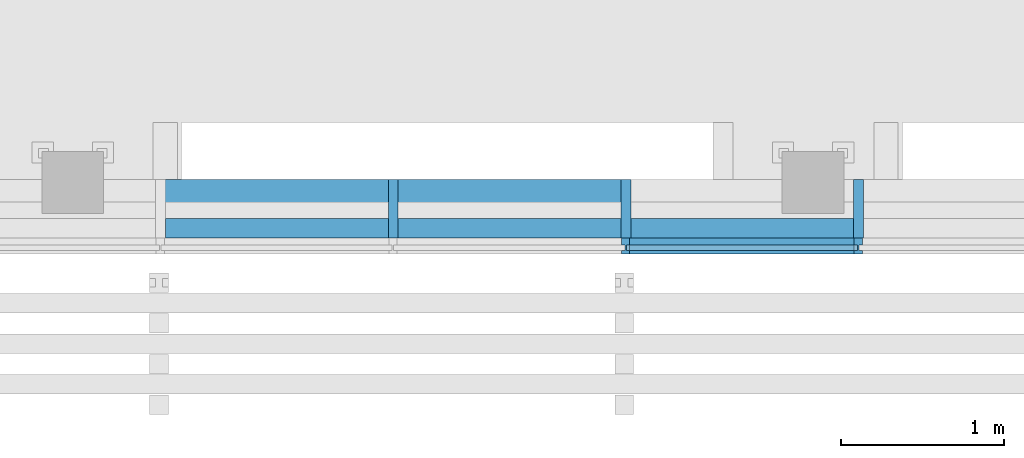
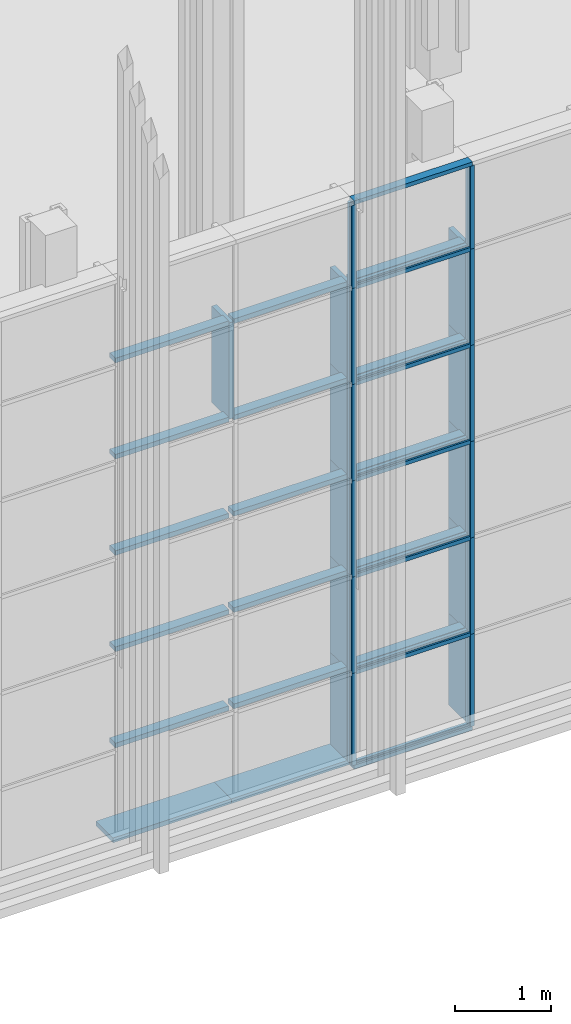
# One storey, part 14 of 260: 47 members, 2 elements without a shape of their own.
"""IFC2X3 building model written with IfcOpenShell, lengths in millimetres."""

import ifcopenshell
import ifcopenshell.guid

model = None  # the IFC model being written
_history = None  # IfcOwnerHistory: only IFC2X3 demands one
_inside = {}  # id of a spatial element -> (the spatial element, [elements in it])
_under = {}  # id of a project, library or spatial element -> (it, [spatial elements below it])
_declared = {}  # id of a project -> (the project, [libraries it declares])
_typed = {}  # id of a type object -> (the type object, [elements of that type])
_made_of = {}  # id of a material, layer set ... -> (it, [elements and type objects made of it])


def new_model(schema):
    """Start an empty IFC model of exactly this schema.

    Asked for "IFC4X3", IfcOpenShell would pick the latest addendum, in which some entities
    have other attributes; the version numbers below select the first issue.
    IFC2X3 requires an IfcOwnerHistory on every rooted entity: one is made here for all.
    """
    global model, _history
    if schema == "IFC4X3":
        model = ifcopenshell.file(schema_version=(4, 3, 0, 0))
    else:
        model = ifcopenshell.file(schema=schema)
    _inside.clear()
    _under.clear()
    _declared.clear()
    _typed.clear()
    _made_of.clear()
    _history = None
    if model.schema == "IFC2X3":
        org = make("IfcOrganization", Name="unknown")
        user = make(
            "IfcPersonAndOrganization",
            ThePerson=make("IfcPerson", FamilyName="unknown"),
            TheOrganization=org,
        )
        app = make(
            "IfcApplication",
            ApplicationDeveloper=org,
            Version="unknown",
            ApplicationFullName="unknown",
            ApplicationIdentifier="unknown",
        )
        _history = make(
            "IfcOwnerHistory",
            OwningUser=user,
            OwningApplication=app,
            ChangeAction="ADDED",
            CreationDate=0,
        )
    return model


def make(cls, **values):
    """One entity of the class cls with the attributes given. An attribute that is None is left unset."""
    return model.create_entity(
        cls, **{name: value for name, value in values.items() if value is not None}
    )


def entity(cls, *values):
    """Any entity or typed value of the class cls, its attributes in the order of the schema. None: left unset."""
    e = model.create_entity(cls)
    for i, value in enumerate(values):
        if value is not None:
            e[i] = value
    return e


def rooted(cls, **values):
    """An entity with a GlobalId (a new one), such as an element, a storey or a relation."""
    return make(cls, GlobalId=ifcopenshell.guid.new(), OwnerHistory=_history, **values)


def si_unit(unit_type, name, prefix=None):
    """IfcSIUnit, for example si_unit("LENGTHUNIT", "METRE", prefix="MILLI")."""
    return make("IfcSIUnit", UnitType=unit_type, Prefix=prefix, Name=name)


def converted_unit(unit_type, name, factor, base, dimensions=None, offset=None):
    """IfcConversionBasedUnit, such as the inch: factor (a typed value) times the base unit."""
    return make(
        "IfcConversionBasedUnit"
        if offset is None
        else "IfcConversionBasedUnitWithOffset",
        ConversionOffset=offset,
        Dimensions=None
        if dimensions is None
        else entity("IfcDimensionalExponents", *dimensions),
        UnitType=unit_type,
        Name=name,
        ConversionFactor=make(
            "IfcMeasureWithUnit", ValueComponent=factor, UnitComponent=base
        ),
    )


def derived_unit(unit_type, elements):
    """IfcDerivedUnit: a product of units, each with its exponent."""
    return make(
        "IfcDerivedUnit",
        Elements=[
            make("IfcDerivedUnitElement", Unit=unit, Exponent=power)
            for unit, power in elements
        ],
        UnitType=unit_type,
    )


def money_unit(currency):
    """IfcMonetaryUnit."""
    return make("IfcMonetaryUnit", Currency=currency)


def assignment(units):
    """IfcUnitAssignment: the units of a project."""
    return None if units is None else make("IfcUnitAssignment", Units=units)


def point(xyz):
    """IfcCartesianPoint."""
    return None if xyz is None else make("IfcCartesianPoint", Coordinates=xyz)


def direction(xyz):
    """IfcDirection."""
    return None if xyz is None else make("IfcDirection", DirectionRatios=xyz)


def frame(location, z_axis=None, x_axis=None):
    """IfcAxis2Placement3D, a coordinate frame: its origin and axes. An axis left out is left unset."""
    return make(
        "IfcAxis2Placement3D",
        Location=point(location),
        Axis=direction(z_axis),
        RefDirection=direction(x_axis),
    )


def origin_with_axes():
    """The frame at (0, 0, 0) with the z axis (0, 0, 1) and the x axis (1, 0, 0) written out."""
    return frame((0.0, 0.0, 0.0), z_axis=(0.0, 0.0, 1.0), x_axis=(1.0, 0.0, 0.0))


def place(relative_to, where):
    """IfcLocalPlacement: puts the frame where relative to a parent placement (None: the world)."""
    return make(
        "IfcLocalPlacement", PlacementRelTo=relative_to, RelativePlacement=where
    )


def context(
    kind, dimensions, precision=None, world=None, true_north=None, identifier=None
):
    """IfcGeometricRepresentationContext, for example the 3D "Model" context."""
    return make(
        "IfcGeometricRepresentationContext",
        ContextIdentifier=identifier,
        ContextType=kind,
        CoordinateSpaceDimension=dimensions,
        Precision=precision,
        WorldCoordinateSystem=world,
        TrueNorth=true_north,
    )


def subcontext(parent, identifier, kind, view, scale=None):
    """IfcGeometricRepresentationSubContext, for example "Body" below "Model"."""
    return make(
        "IfcGeometricRepresentationSubContext",
        ContextIdentifier=identifier,
        ContextType=kind,
        ParentContext=parent,
        TargetScale=scale,
        TargetView=view,
    )


def project(units=None, contexts=None):
    """IfcProject with its units and contexts."""
    return rooted(
        "IfcProject",
        Name="project",
        RepresentationContexts=contexts,
        UnitsInContext=assignment(units),
    )


def spatial(cls, under=None, at=None, **own):
    """A site, building, storey or space (cls), placed at a placement, below another one or the project."""
    s = rooted(cls, ObjectPlacement=at, **own)
    if under is not None:
        _under.setdefault(under.id(), (under, []))[1].append(s)
    return s


def faces_of(points, faces, orient=None, outer=None):
    """IfcFace entities. A face is a list of loops; a loop is a list of indices into points, from 0.

    orient and outer hold one flag for each loop. By default every Orientation is true, the
    first loop of a face is its IfcFaceOuterBound and the others are IfcFaceBound.
    """
    made = []
    for i, loops in enumerate(faces):
        bounds = []
        for j, loop in enumerate(loops):
            is_outer = j == 0 if outer is None else outer[i][j]
            bounds.append(
                make(
                    "IfcFaceOuterBound" if is_outer else "IfcFaceBound",
                    Bound=make("IfcPolyLoop", Polygon=[points[k] for k in loop]),
                    Orientation=True if orient is None else orient[i][j],
                )
            )
        made.append(make("IfcFace", Bounds=bounds))
    return made


def faceted_brep(points, faces, orient=None, outer=None, voids=None):
    """IfcFacetedBrep: a solid bounded by flat faces; with voids (closed shells), ...WithVoids."""
    shared = [point(p) for p in points]
    hull = make("IfcClosedShell", CfsFaces=faces_of(shared, faces, orient, outer))
    if voids is None:
        return make("IfcFacetedBrep", Outer=hull)
    return make(
        "IfcFacetedBrepWithVoids",
        Outer=hull,
        Voids=[
            make(cls, CfsFaces=faces_of(shared, fs, o, b)) for cls, fs, o, b in voids
        ],
    )


def shape(context_of_items, identifier, shape_type, items):
    """IfcShapeRepresentation: the items that make up one representation, for example the "Body"."""
    return make(
        "IfcShapeRepresentation",
        ContextOfItems=context_of_items,
        RepresentationIdentifier=identifier,
        RepresentationType=shape_type,
        Items=items,
    )


def source(mapping_origin, context_of_items, identifier, shape_type, items):
    """IfcRepresentationMap: a shape defined once, which mapped items show again and again."""
    return make(
        "IfcRepresentationMap",
        MappingOrigin=mapping_origin,
        MappedRepresentation=shape(context_of_items, identifier, shape_type, items),
    )


def transform(
    local_origin,
    x_axis=None,
    y_axis=None,
    z_axis=None,
    scale=None,
    scale2=None,
    scale3=None,
    uniform=True,
):
    """IfcCartesianTransformationOperator3D, or its non-uniform kind. x_axis, y_axis, z_axis: its Axis1, 2, 3."""
    if uniform:
        return make(
            "IfcCartesianTransformationOperator3D",
            Axis1=direction(x_axis),
            Axis2=direction(y_axis),
            LocalOrigin=point(local_origin),
            Scale=scale,
            Axis3=direction(z_axis),
        )
    return make(
        "IfcCartesianTransformationOperator3DnonUniform",
        Axis1=direction(x_axis),
        Axis2=direction(y_axis),
        LocalOrigin=point(local_origin),
        Scale=scale,
        Axis3=direction(z_axis),
        Scale2=scale2,
        Scale3=scale3,
    )


def mapped(mapping_source, mapping_target):
    """IfcMappedItem: shows the shape of a source again, moved by a transform."""
    return make(
        "IfcMappedItem", MappingSource=mapping_source, MappingTarget=mapping_target
    )


def material(Name=None, Category=None):
    """IfcMaterial."""
    return make("IfcMaterial", Name=Name, Category=Category)


def made_of(thing, what):
    """Note that an element or type object is made of a material, layer set ...; save() writes the relation."""
    if what is not None:
        _made_of.setdefault(what.id(), (what, []))[1].append(thing)
    return thing


def type_object(cls, material=None, **own):
    """A type object (cls), such as IfcWallType, which elements share."""
    return made_of(rooted(cls, **own), material)


def element(
    cls,
    number,
    at=None,
    inside=None,
    cuts=None,
    type_object=None,
    material=None,
    context=None,
    identifier="Body",
    shape_type=None,
    held_by="IfcProductDefinitionShape",
    body=None,
    shapes=None,
    **own,
):
    """One element of the class cls, such as IfcWall. Its Tag is "e" and its number.

    at: its placement. inside: the storey or other place that contains it. cuts: it is an
    opening in that element (IfcRelVoidsElement). A single representation is given by context,
    identifier, shape_type and body (its items); several are given by shapes. held_by: the class
    of the entity that holds the representations. save() writes the other relations.
    """
    e = rooted(cls, Tag="e%d" % number, ObjectPlacement=at, **own)
    if body is not None:
        shapes = [shape(context, identifier, shape_type, body)]
    if shapes is not None:
        e.Representation = make(held_by, Representations=shapes)
    if inside is not None:
        _inside.setdefault(inside.id(), (inside, []))[1].append(e)
    if cuts is not None:
        rooted(
            "IfcRelVoidsElement", RelatingBuildingElement=cuts, RelatedOpeningElement=e
        )
    if type_object is not None:
        _typed.setdefault(type_object.id(), (type_object, []))[1].append(e)
    return made_of(e, material)


def aggregate(whole, parts):
    """IfcRelAggregates: a whole, such as a stair, and the parts it consists of."""
    return rooted("IfcRelAggregates", RelatingObject=whole, RelatedObjects=parts)


def save(model, path):
    """Write the relations noted so far, then the file.

    IfcRelAggregates (storeys below a building ...), IfcRelContainedInSpatialStructure (elements
    in a storey), IfcRelDefinesByType, IfcRelAssociatesMaterial and IfcRelDeclares: one each for
    every whole, place, type object, material and project.
    """
    for whole, parts in _under.values():
        aggregate(whole, parts)
    for where, things in _inside.values():
        rooted(
            "IfcRelContainedInSpatialStructure",
            RelatedElements=things,
            RelatingStructure=where,
        )
    for kind, things in _typed.values():
        rooted("IfcRelDefinesByType", RelatedObjects=things, RelatingType=kind)
    for what, things in _made_of.values():
        rooted("IfcRelAssociatesMaterial", RelatedObjects=things, RelatingMaterial=what)
    for by, libraries in _declared.values():
        rooted("IfcRelDeclares", RelatingContext=by, RelatedDefinitions=libraries)
    model.write(path)


model = new_model("IFC2X3")

# Units and contexts
model_context = context("Model", 3, precision=0.01, world=origin_with_axes(), true_north=direction((0.0, 1.0)))
body_context = subcontext(model_context, "Body", "Model", "MODEL_VIEW")
ifc_project = project(units=[si_unit("LENGTHUNIT", "METRE", prefix="MILLI"), si_unit("AREAUNIT", "SQUARE_METRE"), si_unit("VOLUMEUNIT", "CUBIC_METRE"), converted_unit("PLANEANGLEUNIT", "DEGREE", entity("IfcPlaneAngleMeasure", 0.0174532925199), si_unit("PLANEANGLEUNIT", "RADIAN"), dimensions=[0, 0, 0, 0, 0, 0, 0]), money_unit("EUR"), converted_unit("TIMEUNIT", "Year", entity("IfcTimeMeasure", 31556926.0), si_unit("TIMEUNIT", "SECOND"), dimensions=[0, 0, 1, 0, 0, 0, 0]), si_unit("MASSUNIT", "GRAM", prefix="KILO"), si_unit("THERMODYNAMICTEMPERATUREUNIT", "DEGREE_CELSIUS"), si_unit("LUMINOUSINTENSITYUNIT", "LUMEN"), si_unit("ENERGYUNIT", "JOULE", prefix="MEGA"), derived_unit("THERMALCONDUCTANCEUNIT", [(si_unit("POWERUNIT", "WATT"), 1), (si_unit("LENGTHUNIT", "METRE"), -1), (si_unit("THERMODYNAMICTEMPERATUREUNIT", "KELVIN"), -1)]), derived_unit("SPECIFICHEATCAPACITYUNIT", [(si_unit("ENERGYUNIT", "JOULE"), 1), (si_unit("MASSUNIT", "GRAM", prefix="KILO"), -1), (si_unit("THERMODYNAMICTEMPERATUREUNIT", "KELVIN"), -1)]), derived_unit("MASSDENSITYUNIT", [(si_unit("MASSUNIT", "GRAM", prefix="KILO"), 1), (si_unit("VOLUMEUNIT", "CUBIC_METRE"), -1)])], contexts=[model_context])

# Site, building, storey
site_placement = place(None, origin_with_axes())
site = spatial("IfcSite", under=ifc_project, at=site_placement, Name="Kolde pst 67a", CompositionType="ELEMENT")
building_placement = place(site_placement, origin_with_axes())
building = spatial("IfcBuilding", under=site, at=building_placement, Name="Riigigümnaasium", CompositionType="ELEMENT")
storey_placement = place(building_placement, origin_with_axes())
storey = spatial("IfcBuildingStorey", under=building, at=storey_placement, Name="1. korrus", CompositionType="ELEMENT", Elevation=0.0)

# Curtain wall, members
curtain_wall_type = type_object("IfcCurtainWallType", Name="Curtain Wall Type", PredefinedType="NOTDEFINED")
curtain_wall_1_placement = place(storey_placement, frame((47829.9854655, 8727.77020058, -0.000749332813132), z_axis=(0.0, 0.0, 1.0), x_axis=(1.0, 0.0, 0.0)))
curtain_wall_1 = element("IfcCurtainWall", 1, at=curtain_wall_1_placement, inside=storey, type_object=curtain_wall_type, Name="KLAASFASSAAD")
ifc_material_1 = material(Name="_METALL - alumiinium")
member_type_1 = type_object("IfcMemberType", Name="Mullion Frame 50 x 100", PredefinedType="MEMBER")
shared_shape_1 = source(origin_with_axes(), body_context, "Body", "Brep", [
    faceted_brep([(5.0, -16.5, 1230.00046362), (5.0, 16.5, 1230.00046362), (25.0, 16.5, 1230.00046362), (25.0, 40.0, 1230.00046362), (-25.0, 40.0, 1230.00046362), (-25.0, 16.5, 1230.00046362), (-5.0, 16.5, 1230.00046362), (-5.0, -16.5, 1230.00046362), (-25.0, -16.5, 1230.00046362), (-25.0, -60.0, 1230.00046362), (25.0, -60.0, 1230.00046362), (25.0, -16.5, 1230.00046362), (5.0, -16.5, 50.0), (5.0, 16.5, 50.0), (25.0, 16.5, 50.0), (25.0, 40.0, 50.0), (-25.0, 40.0, 50.0), (-25.0, 16.5, 50.0), (-5.0, 16.5, 50.0), (-5.0, -16.5, 50.0), (-25.0, -16.5, 50.0), (-25.0, -60.0, 50.0), (25.0, -60.0, 50.0), (25.0, -16.5, 50.0)], [[[0, 1, 2, 3, 4, 5, 6, 7, 8, 9, 10, 11]], [[0, 12, 13, 1]], [[1, 13, 14, 2]], [[14, 15, 3, 2]], [[4, 3, 15, 16]], [[17, 5, 4, 16]], [[5, 17, 18, 6]], [[7, 6, 18, 19]], [[8, 7, 19, 20]], [[8, 20, 21, 9]], [[10, 9, 21, 22]], [[11, 10, 22, 23]], [[11, 23, 12, 0]], [[13, 12, 23, 22, 21, 20, 19, 18, 17, 16, 15, 14]]]),
])
member_1_placement = place(curtain_wall_1_placement, frame((-11302.4150636, 15102.3589146, 0.000285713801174), z_axis=(0.0, 0.0, 1.0), x_axis=(0.999999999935, -1.14108152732e-05, 0.0)))
member_1 = element("IfcMember", 2, at=member_1_placement, type_object=member_type_1, material=ifc_material_1, Name="RF RAAM VERT-095", ObjectType="MEMBER", context=body_context, shape_type="MappedRepresentation", body=[
    mapped(shared_shape_1, transform((0.0, 0.0, 0.0), x_axis=(-1.0, 0.0, 0.0), y_axis=(0.0, -1.0, 0.0), z_axis=(0.0, 0.0, 1.0))),
])
member_2_placement = place(curtain_wall_1_placement, frame((-12732.4150635, 15102.375232, 0.000285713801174), z_axis=(0.0, 0.0, 1.0), x_axis=(0.999999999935, -1.14108152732e-05, 0.0)))
member_2 = element("IfcMember", 3, at=member_2_placement, type_object=member_type_1, material=ifc_material_1, Name="RF RAAM VERT-101", ObjectType="MEMBER", context=body_context, shape_type="MappedRepresentation", body=[
    mapped(shared_shape_1, transform((0.0, 0.0, 0.0), x_axis=(-1.0, 0.0, 0.0), y_axis=(0.0, -1.0, 0.0), z_axis=(0.0, 0.0, 1.0))),
])
shared_shape_2 = source(origin_with_axes(), body_context, "Body", "Brep", [
    faceted_brep([(5.0, -16.5, 1230.0), (5.0, 16.5, 1230.0), (25.0, 16.5, 1230.0), (25.0, 40.0, 1230.0), (-25.0, 40.0, 1230.0), (-25.0, 16.5, 1230.0), (-5.0, 16.5, 1230.0), (-5.0, -16.5, 1230.0), (-25.0, -16.5, 1230.0), (-25.0, -60.0, 1230.0), (25.0, -60.0, 1230.0), (25.0, -16.5, 1230.0), (5.0, -16.5, 0.0), (5.0, 16.5, 0.0), (25.0, 16.5, 0.0), (25.0, 40.0, 0.0), (-25.0, 40.0, 0.0), (-25.0, 16.5, 0.0), (-5.0, 16.5, 0.0), (-5.0, -16.5, 0.0), (-25.0, -16.5, 0.0), (-25.0, -60.0, 0.0), (25.0, -60.0, 0.0), (25.0, -16.5, 0.0)], [[[0, 1, 2, 3, 4, 5, 6, 7, 8, 9, 10, 11]], [[0, 12, 13, 1]], [[1, 13, 14, 2]], [[14, 15, 3, 2]], [[3, 15, 16, 4]], [[17, 5, 4, 16]], [[5, 17, 18, 6]], [[7, 6, 18, 19]], [[8, 7, 19, 20]], [[8, 20, 21, 9]], [[9, 21, 22, 10]], [[11, 10, 22, 23]], [[11, 23, 12, 0]], [[13, 12, 23, 22, 21, 20, 19, 18, 17, 16, 15, 14]]]),
])
member_3_placement = place(curtain_wall_1_placement, frame((-11302.4150636, 15102.3589146, 1230.00074933), z_axis=(0.0, 0.0, 1.0), x_axis=(0.999999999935, -1.14108152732e-05, 0.0)))
member_3 = element("IfcMember", 4, at=member_3_placement, type_object=member_type_1, material=ifc_material_1, Name="RF RAAM VERT-096", ObjectType="MEMBER", context=body_context, shape_type="MappedRepresentation", body=[
    mapped(shared_shape_2, transform((0.0, 0.0, 0.0), x_axis=(-1.0, 0.0, 0.0), y_axis=(0.0, -1.0, 0.0), z_axis=(0.0, 0.0, 1.0))),
])
member_4_placement = place(curtain_wall_1_placement, frame((-11302.4150636, 15102.3589146, 2460.00074933), z_axis=(0.0, 0.0, 1.0), x_axis=(0.999999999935, -1.14108152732e-05, 0.0)))
member_4 = element("IfcMember", 5, at=member_4_placement, type_object=member_type_1, material=ifc_material_1, Name="RF RAAM VERT-097", ObjectType="MEMBER", context=body_context, shape_type="MappedRepresentation", body=[
    mapped(shared_shape_2, transform((0.0, 0.0, 0.0), x_axis=(-1.0, 0.0, 0.0), y_axis=(0.0, -1.0, 0.0), z_axis=(0.0, 0.0, 1.0))),
])
member_5_placement = place(curtain_wall_1_placement, frame((-11302.4150636, 15102.3589146, 3690.00074933), z_axis=(0.0, 0.0, 1.0), x_axis=(0.999999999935, -1.14108152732e-05, 0.0)))
member_5 = element("IfcMember", 6, at=member_5_placement, type_object=member_type_1, material=ifc_material_1, Name="RF RAAM VERT-098", ObjectType="MEMBER", context=body_context, shape_type="MappedRepresentation", body=[
    mapped(shared_shape_2, transform((0.0, 0.0, 0.0), x_axis=(-1.0, 0.0, 0.0), y_axis=(0.0, -1.0, 0.0), z_axis=(0.0, 0.0, 1.0))),
])
member_6_placement = place(curtain_wall_1_placement, frame((-11302.4150636, 15102.3589146, 4920.00074933), z_axis=(0.0, 0.0, 1.0), x_axis=(0.999999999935, -1.14108152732e-05, 0.0)))
member_6 = element("IfcMember", 7, at=member_6_placement, type_object=member_type_1, material=ifc_material_1, Name="RF RAAM VERT-099", ObjectType="MEMBER", context=body_context, shape_type="MappedRepresentation", body=[
    mapped(shared_shape_2, transform((0.0, 0.0, 0.0), x_axis=(-1.0, 0.0, 0.0), y_axis=(0.0, -1.0, 0.0), z_axis=(0.0, 0.0, 1.0))),
])
member_7_placement = place(curtain_wall_1_placement, frame((-12732.4150635, 15102.375232, 1230.00074933), z_axis=(0.0, 0.0, 1.0), x_axis=(0.999999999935, -1.14108152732e-05, 0.0)))
member_7 = element("IfcMember", 8, at=member_7_placement, type_object=member_type_1, material=ifc_material_1, Name="RF RAAM VERT-102", ObjectType="MEMBER", context=body_context, shape_type="MappedRepresentation", body=[
    mapped(shared_shape_2, transform((0.0, 0.0, 0.0), x_axis=(-1.0, 0.0, 0.0), y_axis=(0.0, -1.0, 0.0), z_axis=(0.0, 0.0, 1.0))),
])
member_8_placement = place(curtain_wall_1_placement, frame((-12732.4150635, 15102.375232, 2460.00074933), z_axis=(0.0, 0.0, 1.0), x_axis=(0.999999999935, -1.14108152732e-05, 0.0)))
member_8 = element("IfcMember", 9, at=member_8_placement, type_object=member_type_1, material=ifc_material_1, Name="RF RAAM VERT-103", ObjectType="MEMBER", context=body_context, shape_type="MappedRepresentation", body=[
    mapped(shared_shape_2, transform((0.0, 0.0, 0.0), x_axis=(-1.0, 0.0, 0.0), y_axis=(0.0, -1.0, 0.0), z_axis=(0.0, 0.0, 1.0))),
])
member_9_placement = place(curtain_wall_1_placement, frame((-12732.4150635, 15102.375232, 3690.00074933), z_axis=(0.0, 0.0, 1.0), x_axis=(0.999999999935, -1.14108152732e-05, 0.0)))
member_9 = element("IfcMember", 10, at=member_9_placement, type_object=member_type_1, material=ifc_material_1, Name="RF RAAM VERT-104", ObjectType="MEMBER", context=body_context, shape_type="MappedRepresentation", body=[
    mapped(shared_shape_2, transform((0.0, 0.0, 0.0), x_axis=(-1.0, 0.0, 0.0), y_axis=(0.0, -1.0, 0.0), z_axis=(0.0, 0.0, 1.0))),
])
member_10_placement = place(curtain_wall_1_placement, frame((-12732.4150635, 15102.375232, 4920.00074933), z_axis=(0.0, 0.0, 1.0), x_axis=(0.999999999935, -1.14108152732e-05, 0.0)))
member_10 = element("IfcMember", 11, at=member_10_placement, type_object=member_type_1, material=ifc_material_1, Name="RF RAAM VERT-105", ObjectType="MEMBER", context=body_context, shape_type="MappedRepresentation", body=[
    mapped(shared_shape_2, transform((0.0, 0.0, 0.0), x_axis=(-1.0, 0.0, 0.0), y_axis=(0.0, -1.0, 0.0), z_axis=(0.0, 0.0, 1.0))),
])
member_type_2 = type_object("IfcMemberType", Name="Boundary Frame 50 x 100", PredefinedType="MEMBER")
shared_shape_3 = source(origin_with_axes(), body_context, "Body", "Brep", [
    faceted_brep([(-30.0, -16.5, 1430.0), (-50.0, -16.5, 1430.0), (-50.0, -60.0, 1430.0), (0.0, -60.0, 1430.0), (0.0, 40.0, 1430.0), (-50.0, 40.0, 1430.0), (-50.0, 16.5, 1430.0), (-30.0, 16.5, 1430.0), (-30.0, -16.5, 0.0), (-50.0, -16.5, 0.0), (-50.0, -60.0, 0.0), (0.0, -60.0, 0.0), (0.0, 40.0, 0.0), (-50.0, 40.0, 0.0), (-50.0, 16.5, 0.0), (-30.0, 16.5, 0.0)], [[[0, 1, 2, 3, 4, 5, 6, 7]], [[0, 8, 9, 1]], [[9, 10, 2, 1]], [[10, 11, 3, 2]], [[11, 12, 4, 3]], [[12, 13, 5, 4]], [[6, 5, 13, 14]], [[14, 15, 7, 6]], [[7, 15, 8, 0]], [[8, 15, 14, 13, 12, 11, 10, 9]]]),
])
member_11_placement = place(curtain_wall_1_placement, frame((-11302.4150636, 15102.3589146, 0.000285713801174), z_axis=(-0.999999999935, 1.14108152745e-05, 0.0), x_axis=(0.0, 0.0, 1.0)))
member_11 = element("IfcMember", 12, at=member_11_placement, type_object=member_type_2, material=ifc_material_1, Name="RF RAAM SERV-597", ObjectType="MEMBER", context=body_context, shape_type="MappedRepresentation", body=[
    mapped(shared_shape_3, transform((0.0, 0.0, 0.0), x_axis=(-1.0, 0.0, 0.0), y_axis=(0.0, -1.0, 0.0), z_axis=(0.0, 0.0, 1.0))),
])
member_12_placement = place(curtain_wall_1_placement, frame((-12732.4150635, 15102.375232, 7259.99992735), z_axis=(0.999999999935, -1.14108152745e-05, 0.0), x_axis=(0.0, 0.0, -1.0)))
member_12 = element("IfcMember", 13, at=member_12_placement, type_object=member_type_2, material=ifc_material_1, Name="RF RAAM SERV-620", ObjectType="MEMBER", context=body_context, shape_type="MappedRepresentation", body=[
    mapped(shared_shape_3, transform((0.0, 0.0, 0.0), x_axis=(-1.0, 0.0, 0.0), y_axis=(0.0, -1.0, 0.0), z_axis=(0.0, 0.0, 1.0))),
])
member_type_3 = type_object("IfcMemberType", Name="Transom Frame 50 x 100", PredefinedType="MEMBER")
shared_shape_4 = source(origin_with_axes(), body_context, "Body", "Brep", [
    faceted_brep([(5.0, -16.5, 1405.0), (5.0, 16.5, 1405.0), (25.0, 16.5, 1405.0), (25.0, 40.0, 1405.0), (-25.0, 40.0, 1405.0), (-25.0, 16.5, 1405.0), (-5.0, 16.5, 1405.0), (-5.0, -16.5, 1405.0), (-25.0, -16.5, 1405.0), (-25.0, -60.0, 1405.0), (25.0, -60.0, 1405.0), (25.0, -16.5, 1405.0), (5.0, -16.5, 25.0), (5.0, 16.5, 25.0), (25.0, 16.5, 25.0), (25.0, 40.0, 25.0), (-25.0, 40.0, 25.0), (-25.0, 16.5, 25.0), (-5.0, 16.5, 25.0), (-5.0, -16.5, 25.0), (-25.0, -16.5, 25.0), (-25.0, -60.0, 25.0), (25.0, -60.0, 25.0), (25.0, -16.5, 25.0)], [[[0, 1, 2, 3, 4, 5, 6, 7, 8, 9, 10, 11]], [[0, 12, 13, 1]], [[1, 13, 14, 2]], [[14, 15, 3, 2]], [[4, 3, 15, 16]], [[17, 5, 4, 16]], [[5, 17, 18, 6]], [[7, 6, 18, 19]], [[8, 7, 19, 20]], [[8, 20, 21, 9]], [[10, 9, 21, 22]], [[11, 10, 22, 23]], [[11, 23, 12, 0]], [[13, 12, 23, 22, 21, 20, 19, 18, 17, 16, 15, 14]]]),
])
member_13_placement = place(curtain_wall_1_placement, frame((-11302.4150636, 15102.3589146, 1230.00074933), z_axis=(-0.999999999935, 1.14108152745e-05, 0.0), x_axis=(0.0, 0.0, 1.0)))
member_13 = element("IfcMember", 14, at=member_13_placement, type_object=member_type_3, material=ifc_material_1, Name="RF RAAM HOR-033", ObjectType="MEMBER", context=body_context, shape_type="MappedRepresentation", body=[
    mapped(shared_shape_4, transform((0.0, 0.0, 0.0), x_axis=(-1.0, 0.0, 0.0), y_axis=(0.0, -1.0, 0.0), z_axis=(0.0, 0.0, 1.0))),
])
member_14_placement = place(curtain_wall_1_placement, frame((-11302.4150636, 15102.3589146, 2460.00074933), z_axis=(-0.999999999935, 1.14108152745e-05, 0.0), x_axis=(0.0, 0.0, 1.0)))
member_14 = element("IfcMember", 15, at=member_14_placement, type_object=member_type_3, material=ifc_material_1, Name="RF RAAM HOR-050", ObjectType="MEMBER", context=body_context, shape_type="MappedRepresentation", body=[
    mapped(shared_shape_4, transform((0.0, 0.0, 0.0), x_axis=(-1.0, 0.0, 0.0), y_axis=(0.0, -1.0, 0.0), z_axis=(0.0, 0.0, 1.0))),
])
member_15_placement = place(curtain_wall_1_placement, frame((-11302.4150636, 15102.3589146, 3690.00074933), z_axis=(-0.999999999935, 1.14108152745e-05, 0.0), x_axis=(0.0, 0.0, 1.0)))
member_15 = element("IfcMember", 16, at=member_15_placement, type_object=member_type_3, material=ifc_material_1, Name="RF RAAM HOR-067", ObjectType="MEMBER", context=body_context, shape_type="MappedRepresentation", body=[
    mapped(shared_shape_4, transform((0.0, 0.0, 0.0), x_axis=(-1.0, 0.0, 0.0), y_axis=(0.0, -1.0, 0.0), z_axis=(0.0, 0.0, 1.0))),
])
member_16_placement = place(curtain_wall_1_placement, frame((-11302.4150636, 15102.3589146, 4920.00074933), z_axis=(-0.999999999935, 1.14108152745e-05, 0.0), x_axis=(0.0, 0.0, 1.0)))
member_16 = element("IfcMember", 17, at=member_16_placement, type_object=member_type_3, material=ifc_material_1, Name="RF RAAM HOR-084", ObjectType="MEMBER", context=body_context, shape_type="MappedRepresentation", body=[
    mapped(shared_shape_4, transform((0.0, 0.0, 0.0), x_axis=(-1.0, 0.0, 0.0), y_axis=(0.0, -1.0, 0.0), z_axis=(0.0, 0.0, 1.0))),
])
member_17_placement = place(curtain_wall_1_placement, frame((-11302.4150636, 15102.3589146, 6150.00074933), z_axis=(-0.999999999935, 1.14108152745e-05, 0.0), x_axis=(0.0, 0.0, 1.0)))
member_17 = element("IfcMember", 18, at=member_17_placement, type_object=member_type_3, material=ifc_material_1, Name="RF RAAM HOR-101", ObjectType="MEMBER", context=body_context, shape_type="MappedRepresentation", body=[
    mapped(shared_shape_4, transform((0.0, 0.0, 0.0), x_axis=(-1.0, 0.0, 0.0), y_axis=(0.0, -1.0, 0.0), z_axis=(0.0, 0.0, 1.0))),
])
shared_shape_5 = source(origin_with_axes(), body_context, "Body", "Brep", [
    faceted_brep([(5.0, -16.5, 1059.99917802), (5.0, 16.5, 1059.99917802), (25.0, 16.5, 1059.99917802), (25.0, 40.0, 1059.99917802), (-25.0, 40.0, 1059.99917802), (-25.0, 16.5, 1059.99917802), (-5.0, 16.5, 1059.99917802), (-5.0, -16.5, 1059.99917802), (-25.0, -16.5, 1059.99917802), (-25.0, -60.0, 1059.99917802), (25.0, -60.0, 1059.99917802), (25.0, -16.5, 1059.99917802), (5.0, -16.5, 0.0), (5.0, 16.5, 0.0), (25.0, 16.5, 0.0), (25.0, 40.0, 0.0), (-25.0, 40.0, 0.0), (-25.0, 16.5, 0.0), (-5.0, 16.5, 0.0), (-5.0, -16.5, 0.0), (-25.0, -16.5, 0.0), (-25.0, -60.0, 0.0), (25.0, -60.0, 0.0), (25.0, -16.5, 0.0)], [[[0, 1, 2, 3, 4, 5, 6, 7, 8, 9, 10, 11]], [[0, 12, 13, 1]], [[1, 13, 14, 2]], [[14, 15, 3, 2]], [[3, 15, 16, 4]], [[17, 5, 4, 16]], [[5, 17, 18, 6]], [[7, 6, 18, 19]], [[8, 7, 19, 20]], [[8, 20, 21, 9]], [[9, 21, 22, 10]], [[11, 10, 22, 23]], [[11, 23, 12, 0]], [[13, 12, 23, 22, 21, 20, 19, 18, 17, 16, 15, 14]]]),
])
member_18_placement = place(curtain_wall_1_placement, frame((-11302.4150636, 15102.3589146, 6150.00074933), z_axis=(0.0, 0.0, 1.0), x_axis=(0.999999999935, -1.14108152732e-05, 0.0)))
member_18 = element("IfcMember", 19, at=member_18_placement, type_object=member_type_1, material=ifc_material_1, Name="RF RAAM VERT-081", ObjectType="MEMBER", context=body_context, shape_type="MappedRepresentation", body=[
    mapped(shared_shape_5, transform((0.0, 0.0, 0.0), x_axis=(-1.0, 0.0, 0.0), y_axis=(0.0, -1.0, 0.0), z_axis=(0.0, 0.0, 1.0))),
])
member_19_placement = place(curtain_wall_1_placement, frame((-12732.4150635, 15102.375232, 6150.00074933), z_axis=(0.0, 0.0, 1.0), x_axis=(0.999999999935, -1.14108152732e-05, 0.0)))
member_19 = element("IfcMember", 20, at=member_19_placement, type_object=member_type_1, material=ifc_material_1, Name="RF RAAM VERT-082", ObjectType="MEMBER", context=body_context, shape_type="MappedRepresentation", body=[
    mapped(shared_shape_5, transform((0.0, 0.0, 0.0), x_axis=(-1.0, 0.0, 0.0), y_axis=(0.0, -1.0, 0.0), z_axis=(0.0, 0.0, 1.0))),
])
aggregate(curtain_wall_1, [member_1, member_3, member_4, member_5, member_6, member_2, member_7, member_8, member_9, member_10, member_11, member_13, member_14, member_15, member_16, member_17, member_18, member_19, member_12])

curtain_wall_2_placement = place(storey_placement, frame((23890.0026791, 27220.1832522, -0.000253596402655), z_axis=(0.0, 0.0, 1.0), x_axis=(1.0, 0.0, 0.0)))
curtain_wall_2 = element("IfcCurtainWall", 21, at=curtain_wall_2_placement, inside=storey, type_object=curtain_wall_type, Name="Klaasfassaadi puitkarkass")
ifc_material_2 = material(Name="_KANDETARIND - liimpuit vastavalt EK osale")
member_type_4 = type_object("IfcMemberType", Name="Transom Frame 60 x 120", PredefinedType="MEMBER")
shared_shape_6 = source(origin_with_axes(), body_context, "Body", "Brep", [
    faceted_brep([(-30.0, 0.0, 30.0), (-30.0, -120.0, 30.0), (-30.0, -120.0, 1400.0), (-30.0, 0.0, 1400.0), (30.0, 0.0, 30.0), (30.0, -120.0, 30.0), (30.0, -120.0, 1400.0), (30.0, 0.0, 1400.0)], [[[0, 1, 2, 3]], [[1, 0, 4, 5]], [[1, 5, 6, 2]], [[2, 6, 7, 3]], [[4, 0, 3, 7]], [[5, 4, 7, 6]]]),
])
member_20_placement = place(curtain_wall_2_placement, frame((12639.3770557, -3330.1684461, 1230.0002536), z_axis=(-1.0, 0.0, 0.0), x_axis=(0.0, 0.0, 1.0)))
member_20 = element("IfcMember", 22, at=member_20_placement, type_object=member_type_4, material=ifc_material_2, Name="RF RAAM HOR-648", ObjectType="MEMBER", context=body_context, shape_type="MappedRepresentation", body=[
    mapped(shared_shape_6, transform((0.0, 0.0, 0.0), x_axis=(-1.0, 0.0, 0.0), y_axis=(0.0, -1.0, 0.0), z_axis=(0.0, 0.0, 1.0))),
])
member_21_placement = place(curtain_wall_2_placement, frame((11209.3770557, -3330.16844623, 1230.0002536), z_axis=(-1.0, 0.0, 0.0), x_axis=(0.0, 0.0, 1.0)))
member_21 = element("IfcMember", 23, at=member_21_placement, type_object=member_type_4, material=ifc_material_2, Name="RF RAAM HOR-648", ObjectType="MEMBER", context=body_context, shape_type="MappedRepresentation", body=[
    mapped(shared_shape_6, transform((0.0, 0.0, 0.0), x_axis=(-1.0, 0.0, 0.0), y_axis=(0.0, -1.0, 0.0), z_axis=(0.0, 0.0, 1.0))),
])
member_22_placement = place(curtain_wall_2_placement, frame((9779.37705572, -3330.16844635, 1230.0002536), z_axis=(-1.0, 0.0, 0.0), x_axis=(0.0, 0.0, 1.0)))
member_22 = element("IfcMember", 24, at=member_22_placement, type_object=member_type_4, material=ifc_material_2, Name="RF RAAM HOR-648", ObjectType="MEMBER", context=body_context, shape_type="MappedRepresentation", body=[
    mapped(shared_shape_6, transform((0.0, 0.0, 0.0), x_axis=(-1.0, 0.0, 0.0), y_axis=(0.0, -1.0, 0.0), z_axis=(0.0, 0.0, 1.0))),
])
member_23_placement = place(curtain_wall_2_placement, frame((12639.3770557, -3330.1684461, 2460.0002536), z_axis=(-1.0, 0.0, 0.0), x_axis=(0.0, 0.0, 1.0)))
member_23 = element("IfcMember", 25, at=member_23_placement, type_object=member_type_4, material=ifc_material_2, Name="RF RAAM HOR-648", ObjectType="MEMBER", context=body_context, shape_type="MappedRepresentation", body=[
    mapped(shared_shape_6, transform((0.0, 0.0, 0.0), x_axis=(-1.0, 0.0, 0.0), y_axis=(0.0, -1.0, 0.0), z_axis=(0.0, 0.0, 1.0))),
])
member_24_placement = place(curtain_wall_2_placement, frame((11209.3770557, -3330.16844623, 2460.0002536), z_axis=(-1.0, 0.0, 0.0), x_axis=(0.0, 0.0, 1.0)))
member_24 = element("IfcMember", 26, at=member_24_placement, type_object=member_type_4, material=ifc_material_2, Name="RF RAAM HOR-648", ObjectType="MEMBER", context=body_context, shape_type="MappedRepresentation", body=[
    mapped(shared_shape_6, transform((0.0, 0.0, 0.0), x_axis=(-1.0, 0.0, 0.0), y_axis=(0.0, -1.0, 0.0), z_axis=(0.0, 0.0, 1.0))),
])
member_25_placement = place(curtain_wall_2_placement, frame((9779.37705572, -3330.16844635, 2460.0002536), z_axis=(-1.0, 0.0, 0.0), x_axis=(0.0, 0.0, 1.0)))
member_25 = element("IfcMember", 27, at=member_25_placement, type_object=member_type_4, material=ifc_material_2, Name="RF RAAM HOR-648", ObjectType="MEMBER", context=body_context, shape_type="MappedRepresentation", body=[
    mapped(shared_shape_6, transform((0.0, 0.0, 0.0), x_axis=(-1.0, 0.0, 0.0), y_axis=(0.0, -1.0, 0.0), z_axis=(0.0, 0.0, 1.0))),
])
member_26_placement = place(curtain_wall_2_placement, frame((12639.3770557, -3330.1684461, 3690.0002536), z_axis=(-1.0, 0.0, 0.0), x_axis=(0.0, 0.0, 1.0)))
member_26 = element("IfcMember", 28, at=member_26_placement, type_object=member_type_4, material=ifc_material_2, Name="RF RAAM HOR-648", ObjectType="MEMBER", context=body_context, shape_type="MappedRepresentation", body=[
    mapped(shared_shape_6, transform((0.0, 0.0, 0.0), x_axis=(-1.0, 0.0, 0.0), y_axis=(0.0, -1.0, 0.0), z_axis=(0.0, 0.0, 1.0))),
])
member_27_placement = place(curtain_wall_2_placement, frame((11209.3770557, -3330.16844623, 3690.0002536), z_axis=(-1.0, 0.0, 0.0), x_axis=(0.0, 0.0, 1.0)))
member_27 = element("IfcMember", 29, at=member_27_placement, type_object=member_type_4, material=ifc_material_2, Name="RF RAAM HOR-648", ObjectType="MEMBER", context=body_context, shape_type="MappedRepresentation", body=[
    mapped(shared_shape_6, transform((0.0, 0.0, 0.0), x_axis=(-1.0, 0.0, 0.0), y_axis=(0.0, -1.0, 0.0), z_axis=(0.0, 0.0, 1.0))),
])
member_28_placement = place(curtain_wall_2_placement, frame((9779.37705572, -3330.16844635, 3690.0002536), z_axis=(-1.0, 0.0, 0.0), x_axis=(0.0, 0.0, 1.0)))
member_28 = element("IfcMember", 30, at=member_28_placement, type_object=member_type_4, material=ifc_material_2, Name="RF RAAM HOR-648", ObjectType="MEMBER", context=body_context, shape_type="MappedRepresentation", body=[
    mapped(shared_shape_6, transform((0.0, 0.0, 0.0), x_axis=(-1.0, 0.0, 0.0), y_axis=(0.0, -1.0, 0.0), z_axis=(0.0, 0.0, 1.0))),
])
member_29_placement = place(curtain_wall_2_placement, frame((12639.3770557, -3330.1684461, 4920.0002536), z_axis=(-1.0, 0.0, 0.0), x_axis=(0.0, 0.0, 1.0)))
member_29 = element("IfcMember", 31, at=member_29_placement, type_object=member_type_4, material=ifc_material_2, Name="RF RAAM HOR-648", ObjectType="MEMBER", context=body_context, shape_type="MappedRepresentation", body=[
    mapped(shared_shape_6, transform((0.0, 0.0, 0.0), x_axis=(-1.0, 0.0, 0.0), y_axis=(0.0, -1.0, 0.0), z_axis=(0.0, 0.0, 1.0))),
])
member_30_placement = place(curtain_wall_2_placement, frame((11209.3770557, -3330.16844623, 4920.0002536), z_axis=(-1.0, 0.0, 0.0), x_axis=(0.0, 0.0, 1.0)))
member_30 = element("IfcMember", 32, at=member_30_placement, type_object=member_type_4, material=ifc_material_2, Name="RF RAAM HOR-648", ObjectType="MEMBER", context=body_context, shape_type="MappedRepresentation", body=[
    mapped(shared_shape_6, transform((0.0, 0.0, 0.0), x_axis=(-1.0, 0.0, 0.0), y_axis=(0.0, -1.0, 0.0), z_axis=(0.0, 0.0, 1.0))),
])
member_31_placement = place(curtain_wall_2_placement, frame((9779.37705572, -3330.16844635, 4920.0002536), z_axis=(-1.0, 0.0, 0.0), x_axis=(0.0, 0.0, 1.0)))
member_31 = element("IfcMember", 33, at=member_31_placement, type_object=member_type_4, material=ifc_material_2, Name="RF RAAM HOR-648", ObjectType="MEMBER", context=body_context, shape_type="MappedRepresentation", body=[
    mapped(shared_shape_6, transform((0.0, 0.0, 0.0), x_axis=(-1.0, 0.0, 0.0), y_axis=(0.0, -1.0, 0.0), z_axis=(0.0, 0.0, 1.0))),
])
member_32_placement = place(curtain_wall_2_placement, frame((12639.3770557, -3330.1684461, 6150.0002536), z_axis=(-1.0, 0.0, 0.0), x_axis=(0.0, 0.0, 1.0)))
member_32 = element("IfcMember", 34, at=member_32_placement, type_object=member_type_4, material=ifc_material_2, Name="RF RAAM HOR-648", ObjectType="MEMBER", context=body_context, shape_type="MappedRepresentation", body=[
    mapped(shared_shape_6, transform((0.0, 0.0, 0.0), x_axis=(-1.0, 0.0, 0.0), y_axis=(0.0, -1.0, 0.0), z_axis=(0.0, 0.0, 1.0))),
])
member_33_placement = place(curtain_wall_2_placement, frame((11209.3770557, -3330.16844623, 6150.0002536), z_axis=(-1.0, 0.0, 0.0), x_axis=(0.0, 0.0, 1.0)))
member_33 = element("IfcMember", 35, at=member_33_placement, type_object=member_type_4, material=ifc_material_2, Name="RF RAAM HOR-648", ObjectType="MEMBER", context=body_context, shape_type="MappedRepresentation", body=[
    mapped(shared_shape_6, transform((0.0, 0.0, 0.0), x_axis=(-1.0, 0.0, 0.0), y_axis=(0.0, -1.0, 0.0), z_axis=(0.0, 0.0, 1.0))),
])
member_34_placement = place(curtain_wall_2_placement, frame((9779.37705572, -3330.16844635, 6150.0002536), z_axis=(-1.0, 0.0, 0.0), x_axis=(0.0, 0.0, 1.0)))
member_34 = element("IfcMember", 36, at=member_34_placement, type_object=member_type_4, material=ifc_material_2, Name="RF RAAM HOR-648", ObjectType="MEMBER", context=body_context, shape_type="MappedRepresentation", body=[
    mapped(shared_shape_6, transform((0.0, 0.0, 0.0), x_axis=(-1.0, 0.0, 0.0), y_axis=(0.0, -1.0, 0.0), z_axis=(0.0, 0.0, 1.0))),
])
member_type_5 = type_object("IfcMemberType", Name="Mullion Frame 60 x 360", PredefinedType="MEMBER")
shared_shape_7 = source(origin_with_axes(), body_context, "Body", "Brep", [
    faceted_brep([(-30.0, 0.0, 60.0), (-30.0, -360.0, 60.0), (-30.0, -360.0, 1230.0002536), (-30.0, 0.0, 1230.0002536), (30.0, 0.0, 60.0), (30.0, -360.0, 60.0), (30.0, -360.0, 1230.0002536), (30.0, 0.0, 1230.0002536)], [[[0, 1, 2, 3]], [[1, 0, 4, 5]], [[1, 5, 6, 2]], [[2, 6, 7, 3]], [[4, 0, 3, 7]], [[5, 4, 7, 6]]]),
])
member_35_placement = place(curtain_wall_2_placement, frame((12639.3770557, -3330.1684461, 0.000124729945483), z_axis=(0.0, 0.0, 1.0), x_axis=(1.0, 0.0, 0.0)))
member_35 = element("IfcMember", 37, at=member_35_placement, type_object=member_type_5, material=ifc_material_2, Name="RF RAAM VERT-837", ObjectType="MEMBER", context=body_context, shape_type="MappedRepresentation", body=[
    mapped(shared_shape_7, transform((0.0, 0.0, 0.0), x_axis=(-1.0, 0.0, 0.0), y_axis=(0.0, -1.0, 0.0), z_axis=(0.0, 0.0, 1.0))),
])
member_36_placement = place(curtain_wall_2_placement, frame((11209.3770557, -3330.16844623, 0.000124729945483), z_axis=(0.0, 0.0, 1.0), x_axis=(1.0, 0.0, 0.0)))
member_36 = element("IfcMember", 38, at=member_36_placement, type_object=member_type_5, material=ifc_material_2, Name="RF RAAM VERT-837", ObjectType="MEMBER", context=body_context, shape_type="MappedRepresentation", body=[
    mapped(shared_shape_7, transform((0.0, 0.0, 0.0), x_axis=(-1.0, 0.0, 0.0), y_axis=(0.0, -1.0, 0.0), z_axis=(0.0, 0.0, 1.0))),
])
shared_shape_8 = source(origin_with_axes(), body_context, "Body", "Brep", [
    faceted_brep([(-30.0, -360.0, 0.0), (-30.0, -360.0, 1230.0), (-30.0, 0.0, 1230.0), (-30.0, 0.0, 0.0), (30.0, -360.0, 0.0), (30.0, -360.0, 1230.0), (30.0, 0.0, 1230.0), (30.0, 0.0, 0.0)], [[[0, 1, 2, 3]], [[4, 5, 1, 0]], [[1, 5, 6, 2]], [[3, 2, 6, 7]], [[0, 3, 7, 4]], [[7, 6, 5, 4]]]),
])
member_37_placement = place(curtain_wall_2_placement, frame((12639.3770557, -3330.1684461, 1230.0002536), z_axis=(0.0, 0.0, 1.0), x_axis=(1.0, 0.0, 0.0)))
member_37 = element("IfcMember", 39, at=member_37_placement, type_object=member_type_5, material=ifc_material_2, Name="RF RAAM VERT-837", ObjectType="MEMBER", context=body_context, shape_type="MappedRepresentation", body=[
    mapped(shared_shape_8, transform((0.0, 0.0, 0.0), x_axis=(-1.0, 0.0, 0.0), y_axis=(0.0, -1.0, 0.0), z_axis=(0.0, 0.0, 1.0))),
])
member_38_placement = place(curtain_wall_2_placement, frame((12639.3770557, -3330.1684461, 2460.0002536), z_axis=(0.0, 0.0, 1.0), x_axis=(1.0, 0.0, 0.0)))
member_38 = element("IfcMember", 40, at=member_38_placement, type_object=member_type_5, material=ifc_material_2, Name="RF RAAM VERT-837", ObjectType="MEMBER", context=body_context, shape_type="MappedRepresentation", body=[
    mapped(shared_shape_8, transform((0.0, 0.0, 0.0), x_axis=(-1.0, 0.0, 0.0), y_axis=(0.0, -1.0, 0.0), z_axis=(0.0, 0.0, 1.0))),
])
member_39_placement = place(curtain_wall_2_placement, frame((12639.3770557, -3330.1684461, 3690.0002536), z_axis=(0.0, 0.0, 1.0), x_axis=(1.0, 0.0, 0.0)))
member_39 = element("IfcMember", 41, at=member_39_placement, type_object=member_type_5, material=ifc_material_2, Name="RF RAAM VERT-837", ObjectType="MEMBER", context=body_context, shape_type="MappedRepresentation", body=[
    mapped(shared_shape_8, transform((0.0, 0.0, 0.0), x_axis=(-1.0, 0.0, 0.0), y_axis=(0.0, -1.0, 0.0), z_axis=(0.0, 0.0, 1.0))),
])
member_40_placement = place(curtain_wall_2_placement, frame((12639.3770557, -3330.1684461, 4920.0002536), z_axis=(0.0, 0.0, 1.0), x_axis=(1.0, 0.0, 0.0)))
member_40 = element("IfcMember", 42, at=member_40_placement, type_object=member_type_5, material=ifc_material_2, Name="RF RAAM VERT-837", ObjectType="MEMBER", context=body_context, shape_type="MappedRepresentation", body=[
    mapped(shared_shape_8, transform((0.0, 0.0, 0.0), x_axis=(-1.0, 0.0, 0.0), y_axis=(0.0, -1.0, 0.0), z_axis=(0.0, 0.0, 1.0))),
])
member_41_placement = place(curtain_wall_2_placement, frame((11209.3770557, -3330.16844623, 1230.0002536), z_axis=(0.0, 0.0, 1.0), x_axis=(1.0, 0.0, 0.0)))
member_41 = element("IfcMember", 43, at=member_41_placement, type_object=member_type_5, material=ifc_material_2, Name="RF RAAM VERT-837", ObjectType="MEMBER", context=body_context, shape_type="MappedRepresentation", body=[
    mapped(shared_shape_8, transform((0.0, 0.0, 0.0), x_axis=(-1.0, 0.0, 0.0), y_axis=(0.0, -1.0, 0.0), z_axis=(0.0, 0.0, 1.0))),
])
member_42_placement = place(curtain_wall_2_placement, frame((11209.3770557, -3330.16844623, 2460.0002536), z_axis=(0.0, 0.0, 1.0), x_axis=(1.0, 0.0, 0.0)))
member_42 = element("IfcMember", 44, at=member_42_placement, type_object=member_type_5, material=ifc_material_2, Name="RF RAAM VERT-837", ObjectType="MEMBER", context=body_context, shape_type="MappedRepresentation", body=[
    mapped(shared_shape_8, transform((0.0, 0.0, 0.0), x_axis=(-1.0, 0.0, 0.0), y_axis=(0.0, -1.0, 0.0), z_axis=(0.0, 0.0, 1.0))),
])
member_43_placement = place(curtain_wall_2_placement, frame((11209.3770557, -3330.16844623, 3690.0002536), z_axis=(0.0, 0.0, 1.0), x_axis=(1.0, 0.0, 0.0)))
member_43 = element("IfcMember", 45, at=member_43_placement, type_object=member_type_5, material=ifc_material_2, Name="RF RAAM VERT-837", ObjectType="MEMBER", context=body_context, shape_type="MappedRepresentation", body=[
    mapped(shared_shape_8, transform((0.0, 0.0, 0.0), x_axis=(-1.0, 0.0, 0.0), y_axis=(0.0, -1.0, 0.0), z_axis=(0.0, 0.0, 1.0))),
])
member_44_placement = place(curtain_wall_2_placement, frame((11209.3770557, -3330.16844623, 4920.0002536), z_axis=(0.0, 0.0, 1.0), x_axis=(1.0, 0.0, 0.0)))
member_44 = element("IfcMember", 46, at=member_44_placement, type_object=member_type_5, material=ifc_material_2, Name="RF RAAM VERT-837", ObjectType="MEMBER", context=body_context, shape_type="MappedRepresentation", body=[
    mapped(shared_shape_8, transform((0.0, 0.0, 0.0), x_axis=(-1.0, 0.0, 0.0), y_axis=(0.0, -1.0, 0.0), z_axis=(0.0, 0.0, 1.0))),
])
member_45_placement = place(curtain_wall_2_placement, frame((9779.37705572, -3330.16844635, 4920.0002536), z_axis=(0.0, 0.0, 1.0), x_axis=(1.0, 0.0, 0.0)))
member_45 = element("IfcMember", 47, at=member_45_placement, type_object=member_type_5, material=ifc_material_2, Name="RF RAAM VERT-837", ObjectType="MEMBER", context=body_context, shape_type="MappedRepresentation", body=[
    mapped(shared_shape_8, transform((0.0, 0.0, 0.0), x_axis=(-1.0, 0.0, 0.0), y_axis=(0.0, -1.0, 0.0), z_axis=(0.0, 0.0, 1.0))),
])
member_type_6 = type_object("IfcMemberType", Name="Boundary Frame 60 x 360", PredefinedType="MEMBER")
shared_shape_9 = source(origin_with_axes(), body_context, "Body", "Brep", [
    faceted_brep([(-60.0, -360.0, 0.0), (-60.0, -360.0, 1430.0), (-60.0, 0.0, 1430.0), (-60.0, 0.0, 0.0), (0.0, -360.0, 0.0), (0.0, -360.0, 1430.0), (0.0, 0.0, 1430.0), (0.0, 0.0, 0.0)], [[[0, 1, 2, 3]], [[4, 5, 1, 0]], [[1, 5, 6, 2]], [[3, 2, 6, 7]], [[0, 3, 7, 4]], [[7, 6, 5, 4]]]),
])
member_46_placement = place(curtain_wall_2_placement, frame((11209.3770557, -3330.16844623, 0.000124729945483), z_axis=(-1.0, 0.0, 0.0), x_axis=(0.0, 0.0, 1.0)))
member_46 = element("IfcMember", 48, at=member_46_placement, type_object=member_type_6, material=ifc_material_2, Name="RF RAAM SERV-671", ObjectType="MEMBER", context=body_context, shape_type="MappedRepresentation", body=[
    mapped(shared_shape_9, transform((0.0, 0.0, 0.0), x_axis=(-1.0, 0.0, 0.0), y_axis=(0.0, -1.0, 0.0), z_axis=(0.0, 0.0, 1.0))),
])
member_47_placement = place(curtain_wall_2_placement, frame((9779.37705572, -3330.16844635, 0.000124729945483), z_axis=(-1.0, 0.0, 0.0), x_axis=(0.0, 0.0, 1.0)))
member_47 = element("IfcMember", 49, at=member_47_placement, type_object=member_type_6, material=ifc_material_2, Name="RF RAAM SERV-672", ObjectType="MEMBER", context=body_context, shape_type="MappedRepresentation", body=[
    mapped(shared_shape_9, transform((0.0, 0.0, 0.0), x_axis=(-1.0, 0.0, 0.0), y_axis=(0.0, -1.0, 0.0), z_axis=(0.0, 0.0, 1.0))),
])
aggregate(curtain_wall_2, [member_35, member_37, member_38, member_39, member_40, member_36, member_41, member_42, member_43, member_44, member_45, member_46, member_47, member_20, member_21, member_22, member_23, member_24, member_25, member_26, member_27, member_28, member_29, member_30, member_31, member_32, member_33, member_34])

save(model, "model.ifc")
